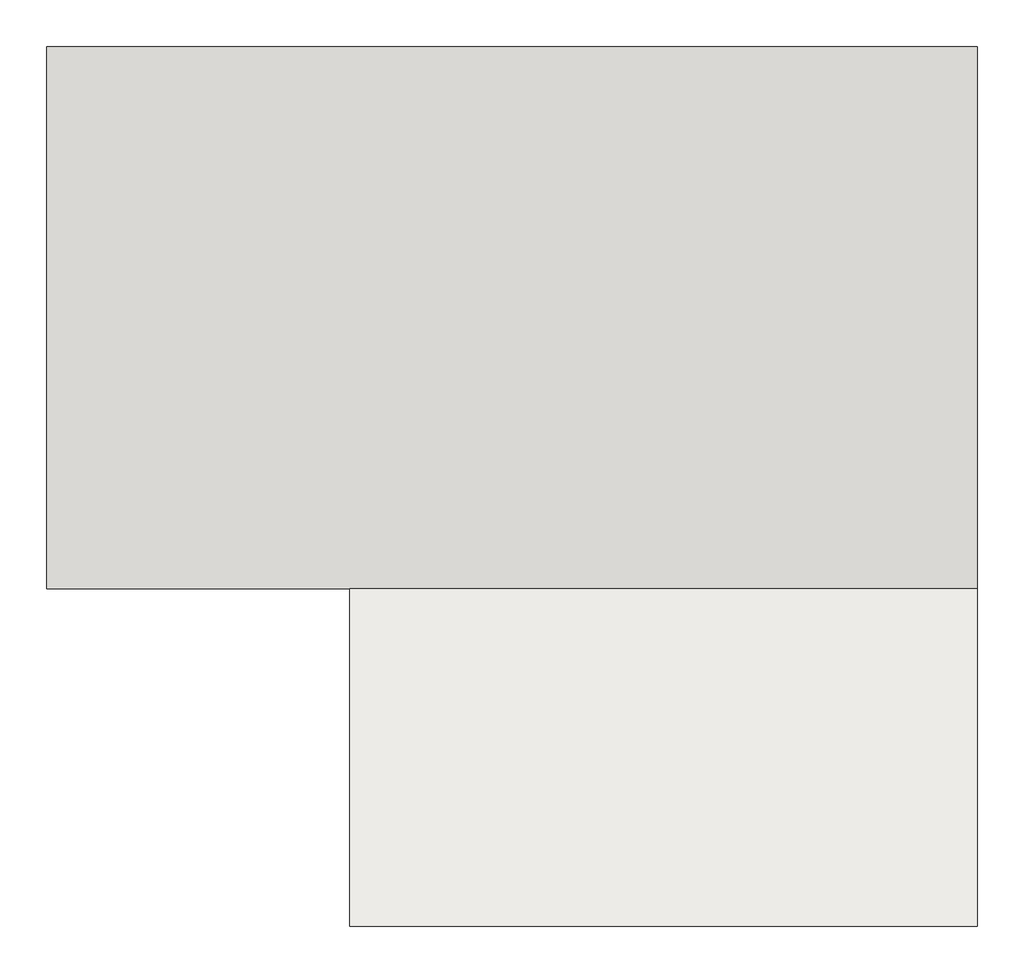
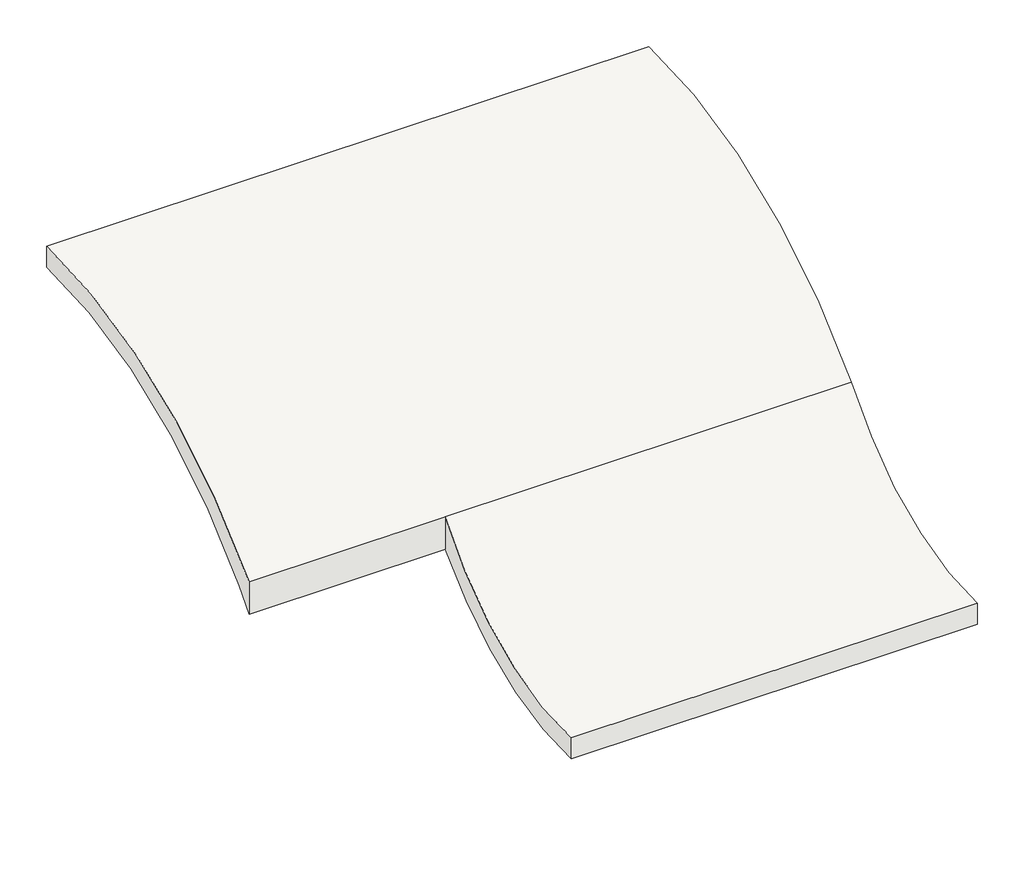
# One storey: 1 roof.
"""IFC4 building model written with IfcOpenShell, lengths in millimetres."""

from ifc_helpers import new_model, si_unit, frame, origin, place, context, project, spatial, polyline, circle_curve, element, save
from ifc_brep_helpers import plane_surface, cylinder_surface, revolved_surface, advanced_brep

model = new_model("IFC4")

# Units and contexts
model_context = context("Model", 3, world=origin())
ifc_project = project(units=[si_unit("LENGTHUNIT", "METRE", prefix="MILLI")], contexts=[model_context])

# Site, building, storey
site = spatial("IfcSite", under=ifc_project)
building = spatial("IfcBuilding", under=site)
storey = spatial("IfcBuildingStorey", under=building, Name="标高 3", Elevation=8000.0)

# Roof
placement = place(None, origin())
element("IfcRoof", 1, ObjectType="常规 - 400mm", at=placement, inside=storey, context=model_context, shape_type="AdvancedBrep", body=[
    advanced_brep(
    [(-8703.2519791, -1301.6850126, 5834.4334659), (-8703.2519791, 5048.3149874, 8400.0), (-8703.2519791, 5048.3149874, 7999.6808479), (-8703.2519791, -997.1884292, 5574.0167054), (-8703.2519791, -1301.6850126, 5211.8304349), (2196.7480209, -1301.6850126, 5834.4334659), (2196.7480209, -5251.6850126, 4000.0), (2196.7480209, -5251.6850126, 3599.4640336), (2196.7480209, -997.1884292, 5574.0167054), (2196.7480209, 5048.3149874, 7999.6808479), (2196.7480209, 5048.3149874, 8400.0), (-5153.2519791, -1301.6850126, 5834.4334659), (-5153.2519791, -5251.6850126, 4000.0), (-5153.2519791, -5251.6850126, 3599.4640336), (-5153.2519791, -1301.6850126, 5211.8304349)],
    [
        (0, 1, circle_curve(frame((-8703.2519791, 4723.3149874, 63.2192007), z_axis=(-1.0, 0.0, 0.0), x_axis=(0.0, -1.0, 0.0)), 8343.1132735)),
        (1, 2),
        (2, 3, circle_curve(frame((-8703.2519791, 4723.3149874, 63.2192007), z_axis=(1.0, 0.0, 0.0), x_axis=(0.0, -1.0, 0.0)), 7943.1132735)),
        (3, 4, circle_curve(frame((-8703.2519791, -5001.6850126, 8631.5787562), z_axis=(-1.0, 0.0, 0.0), x_axis=(0.0, -1.0, 0.0)), 5038.3210082)),
        (4, 0),
        (5, 6, circle_curve(frame((2196.7480209, -5001.6850126, 8631.5787562), z_axis=(-1.0, 0.0, 0.0), x_axis=(0.0, -1.0, 0.0)), 4638.3210082)),
        (6, 7),
        (7, 8, circle_curve(frame((2196.7480209, -5001.6850126, 8631.5787562), z_axis=(1.0, 0.0, 0.0), x_axis=(0.0, -1.0, 0.0)), 5038.3210082)),
        (8, 9, circle_curve(frame((2196.7480209, 4723.3149874, 63.2192007), z_axis=(-1.0, 0.0, 0.0), x_axis=(0.0, -1.0, 0.0)), 7943.1132735)),
        (9, 10),
        (10, 5, circle_curve(frame((2196.7480209, 4723.3149874, 63.2192007), z_axis=(1.0, 0.0, 0.0), x_axis=(0.0, -1.0, 0.0)), 8343.1132735)),
        (5, 11),
        (11, 12, circle_curve(frame((-5153.2519791, -5001.6850126, 8631.5787562), z_axis=(-1.0, 0.0, 0.0), x_axis=(0.0, -1.0, 0.0)), 4638.3210082)),
        (12, 6),
        (0, 11),
        (10, 1),
        (9, 2),
        (8, 3),
        (7, 13),
        (13, 14, circle_curve(frame((-5153.2519791, -5001.6850126, 8631.5787562), z_axis=(1.0, 0.0, 0.0), x_axis=(0.0, -1.0, 0.0)), 5038.3210082)),
        (14, 4),
        (12, 13),
        (14, 11),
    ],
    [
        plane_surface(frame((-8703.2519791, -9640.0060208, 8631.5787562), z_axis=(-1.0, 0.0, 0.0), x_axis=(0.0, 0.0, -1.0))),
        plane_surface(frame((2196.7480209, -9640.0060208, 8631.5787562), z_axis=(1.0, 0.0, 0.0), x_axis=(0.0, 0.0, 1.0))),
        revolved_surface(polyline([(2196.7480209, -9640.0060208, 8631.5787562), (-5153.2519790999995, -9640.0060208, 8631.5787562)]), (2196.7480209, -5001.6850126, 8631.5787562), (1.0, 0.0, 0.0)),
        cylinder_surface(frame((2196.7480209, 4723.3149874, 63.2192007), z_axis=(-1.0, 0.0, 0.0), x_axis=(0.0, -1.0, 0.0)), 8343.1132735),
        plane_surface(frame((-8703.2519791, 5048.3149874, 8400.0), z_axis=(0.0, 1.0, 0.0), x_axis=(1.0, 0.0, 0.0))),
        revolved_surface(polyline([(2196.7480209, -3219.7982861, 63.2192007), (-8703.2519791, -3219.7982861, 63.2192007)]), (2196.7480209, 4723.3149874, 63.2192007), (1.0, 0.0, 0.0)),
        cylinder_surface(frame((2196.7480209, -5001.6850126, 8631.5787562), z_axis=(-1.0, 0.0, 0.0), x_axis=(0.0, -1.0, 0.0)), 5038.3210082),
        plane_surface(frame((-8703.2519791, -5251.6850126, 3599.4640336), z_axis=(0.0, -1.0, 0.0), x_axis=(1.0, 0.0, 0.0))),
        plane_surface(frame((-5153.2519791, -1301.6850126, 23150.3409071), z_axis=(0.0, -1.0, 0.0), x_axis=(0.0, 0.0, -1.0))),
        plane_surface(frame((-5153.2519791, -5251.6850126, 23150.3409071), z_axis=(-1.0, 0.0, 0.0), x_axis=(0.0, 0.0, -1.0))),
    ],
    [
        (0, [[1, 2, 3, 4, 5]]),
        (1, [[6, 7, 8, 9, 10, 11]]),
        (2, [[-6, 12, 13, 14]]),
        (3, [[-1, 15, -12, -11, 16]]),
        (4, [[-2, -16, -10, 17]]),
        (5, [[-3, -17, -9, 18]]),
        (6, [[-8, 19, 20, 21, -4, -18]]),
        (7, [[-7, -14, 22, -19]]),
        (8, [[23, -15, -5, -21]]),
        (9, [[-23, -20, -22, -13]]),
    ],
),
])

save(model, "model.ifc")
